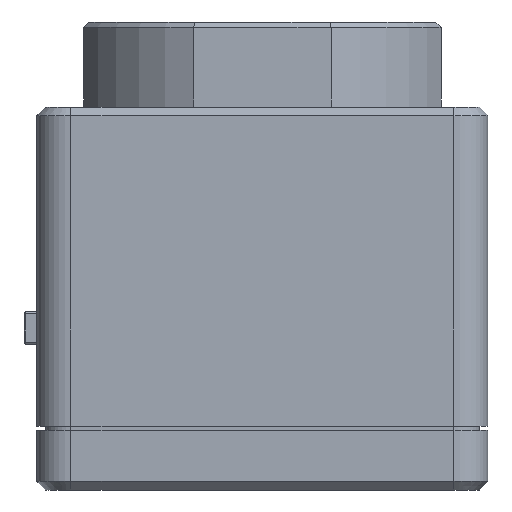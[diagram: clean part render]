
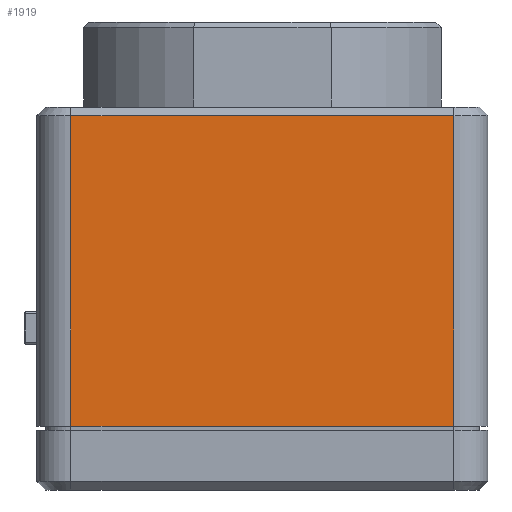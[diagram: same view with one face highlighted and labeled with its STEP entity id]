
A CAD part, front view. The second image highlights one B-rep face of the part: STEP entity #1919.
In plain terms, the highlighted planar face has unit normal (0, -1, 0).
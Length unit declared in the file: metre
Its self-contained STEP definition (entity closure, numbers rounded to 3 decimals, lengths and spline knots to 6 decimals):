
#1919=ADVANCED_FACE('13:36593',(#5450),#5451,.T.);
#5450=FACE_OUTER_BOUND('',#10778,.T.);
#5451=PLANE('',#10779);
#10778=EDGE_LOOP('',(#19177,#19178,#19179,#19180));
#10779=AXIS2_PLACEMENT_3D('',#19181,#19182,#19183);
#19177=ORIENTED_EDGE('',*,*,#34825,.T.);
#19178=ORIENTED_EDGE('',*,*,#34805,.T.);
#19179=ORIENTED_EDGE('',*,*,#34820,.T.);
#19180=ORIENTED_EDGE('',*,*,#34903,.F.);
#19181=CARTESIAN_POINT('',(0.0265,-0.0265,0.0075));
#19182=DIRECTION('',(0.0,-1.0,0.0));
#19183=DIRECTION('',(0.0,0.0,-1.0));
#34805=EDGE_CURVE('13:47024',#41432,#41420,#41433,.T.);
#34820=EDGE_CURVE('13:46976',#41420,#41453,#41454,.F.);
#34825=EDGE_CURVE('13:46979',#41461,#41432,#41462,.T.);
#34903=EDGE_CURVE('13:46835',#41461,#41453,#41576,.T.);
#41420=VERTEX_POINT('',#51148);
#41432=VERTEX_POINT('',#51164);
#41433=LINE('',#51165,#51166);
#41453=VERTEX_POINT('',#51192);
#41454=LINE('',#51193,#51194);
#41461=VERTEX_POINT('',#51203);
#41462=LINE('',#51204,#51205);
#41576=LINE('',#51355,#51356);
#51148=CARTESIAN_POINT('',(-0.0225,-0.0265,0.044));
#51164=CARTESIAN_POINT('',(0.0225,-0.0265,0.044));
#51165=CARTESIAN_POINT('',(0.0265,-0.0265,0.044));
#51166=VECTOR('',#65743,1.0);
#51192=CARTESIAN_POINT('',(-0.0225,-0.0265,0.0075));
#51193=CARTESIAN_POINT('',(-0.0225,-0.0265,0.0075));
#51194=VECTOR('',#65762,1.0);
#51203=CARTESIAN_POINT('',(0.0225,-0.0265,0.0075));
#51204=CARTESIAN_POINT('',(0.0225,-0.0265,0.0075));
#51205=VECTOR('',#65768,1.0);
#51355=CARTESIAN_POINT('',(0.0265,-0.0265,0.0075));
#51356=VECTOR('',#65862,1.0);
#65743=DIRECTION('',(-1.0,0.0,0.0));
#65762=DIRECTION('',(0.0,0.0,1.0));
#65768=DIRECTION('',(0.0,0.0,1.0));
#65862=DIRECTION('',(-1.0,0.0,0.0));
